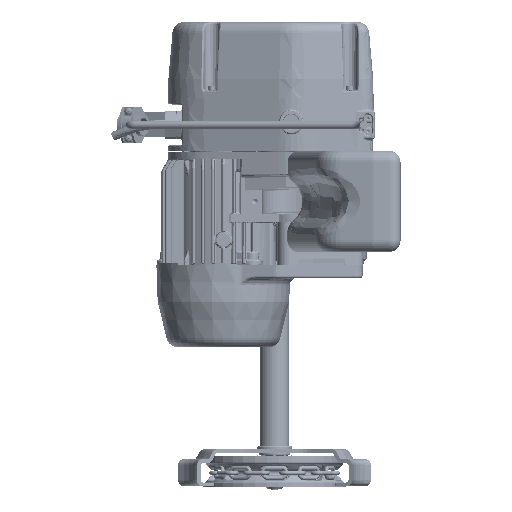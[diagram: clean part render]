
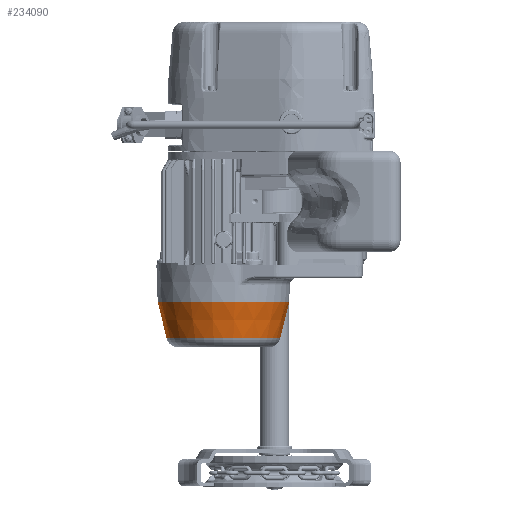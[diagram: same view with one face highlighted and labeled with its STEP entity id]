
A CAD part, front view. The second image highlights one B-rep face of the part: STEP entity #234090.
In plain terms, the highlighted conical face has half-angle 13.829 degrees and reference radius 70 mm.
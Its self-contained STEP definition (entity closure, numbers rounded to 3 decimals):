
#227 = LINE ( 'NONE', #115407, #130052 ) ;
#4469 = VERTEX_POINT ( 'NONE', #276355 ) ;
#6339 = DIRECTION ( 'NONE',  ( -1., 0., 0. ) ) ;
#49333 = CONICAL_SURFACE ( 'NONE', #260438, 70., 0.241 ) ;
#49680 = ORIENTED_EDGE ( 'NONE', *, *, #202806, .T. ) ;
#75082 = DIRECTION ( 'NONE',  ( -1., 0., 0. ) ) ;
#88038 = VERTEX_POINT ( 'NONE', #297828 ) ;
#90314 = DIRECTION ( 'NONE',  ( 0.239, 0., 0.971 ) ) ;
#106648 = DIRECTION ( 'NONE',  ( 0., 0., 1. ) ) ;
#115407 = CARTESIAN_POINT ( 'NONE',  ( -70., 0., -106. ) ) ;
#126935 = EDGE_LOOP ( 'NONE', ( #168811, #204362, #139007, #49680 ) ) ;
#130052 = VECTOR ( 'NONE', #230678, 1000. ) ;
#139007 = ORIENTED_EDGE ( 'NONE', *, *, #189810, .T. ) ;
#141046 = CIRCLE ( 'NONE', #352170, 84.332 ) ;
#146709 = CIRCLE ( 'NONE', #357834, 72.81 ) ;
#149813 = CARTESIAN_POINT ( 'NONE',  ( 0., 0., -94.585 ) ) ;
#163314 = FACE_OUTER_BOUND ( 'NONE', #126935, .T. ) ;
#164295 = EDGE_CURVE ( 'NONE', #249662, #88038, #227, .T. ) ;
#168811 = ORIENTED_EDGE ( 'NONE', *, *, #164295, .F. ) ;
#189810 = EDGE_CURVE ( 'NONE', #4469, #343477, #233892, .T. ) ;
#200978 = CARTESIAN_POINT ( 'NONE',  ( -72.81, 0., -94.585 ) ) ;
#202806 = EDGE_CURVE ( 'NONE', #343477, #88038, #141046, .T. ) ;
#204362 = ORIENTED_EDGE ( 'NONE', *, *, #257457, .T. ) ;
#218579 = CARTESIAN_POINT ( 'NONE',  ( 0., 0., -47.778 ) ) ;
#221898 = DIRECTION ( 'NONE',  ( 1., 0., 0. ) ) ;
#230678 = DIRECTION ( 'NONE',  ( -0.239, 0., 0.971 ) ) ;
#233892 = LINE ( 'NONE', #349056, #266731 ) ;
#234090 = ADVANCED_FACE ( 'NONE', ( #163314 ), #49333, .T. ) ;
#249662 = VERTEX_POINT ( 'NONE', #200978 ) ;
#257457 = EDGE_CURVE ( 'NONE', #249662, #4469, #146709, .T. ) ;
#260438 = AXIS2_PLACEMENT_3D ( 'NONE', #365455, #106648, #221898 ) ;
#265102 = DIRECTION ( 'NONE',  ( 0., 0., 1. ) ) ;
#266731 = VECTOR ( 'NONE', #90314, 1000. ) ;
#276355 = CARTESIAN_POINT ( 'NONE',  ( 72.81, 0., -94.585 ) ) ;
#297828 = CARTESIAN_POINT ( 'NONE',  ( -84.332, 0., -47.778 ) ) ;
#333834 = DIRECTION ( 'NONE',  ( 0., 0., -1. ) ) ;
#343477 = VERTEX_POINT ( 'NONE', #362745 ) ;
#349056 = CARTESIAN_POINT ( 'NONE',  ( 70., 0., -106. ) ) ;
#352170 = AXIS2_PLACEMENT_3D ( 'NONE', #218579, #333834, #75082 ) ;
#357834 = AXIS2_PLACEMENT_3D ( 'NONE', #149813, #265102, #6339 ) ;
#362745 = CARTESIAN_POINT ( 'NONE',  ( 84.332, 0., -47.778 ) ) ;
#365455 = CARTESIAN_POINT ( 'NONE',  ( 0., 0., -106. ) ) ;
